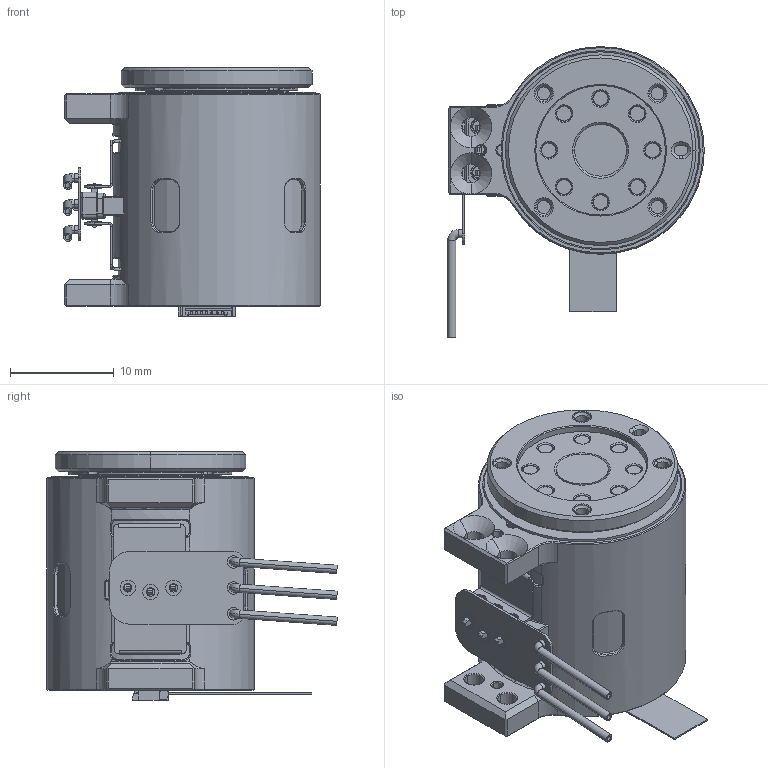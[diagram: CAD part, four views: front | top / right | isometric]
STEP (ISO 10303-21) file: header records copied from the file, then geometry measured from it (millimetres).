
FILE_DESCRIPTION((''),'2;1');
FILE_NAME('X20S_1__ASM','2026-09-01T12:49:15',('wenbo'),(''),'CREO PARAMETRIC BY PTC INC, 2024325','CREO PARAMETRIC BY PTC INC, 2024325','');
FILE_SCHEMA(('CONFIG_CONTROL_DESIGN'));
Length unit declared in the file: millimetre
Products named in the file (36): 023000000004_79_1_1_1; 021100000003_ASM_8_1_ASM_1_ASM__ASM; 021200000003_ASM_28_1_ASM_1_ASM_ASM; 022700000001-ZK_22_1_1_1; CU_1_5_1_1_1; CU_2_3_1_1_1; XICENG_5_1_1_1; XICENG1_6_1_1_1; Y02270000004_AF0_ASM_33_1_ASM_1_ASM; Y02270000004_AF1_ASM_33_1_ASM_1_ASM; 025000000002_AF0_2_1_1_1_1_1; 025300000001_1_1_2_1_1_1_1; 025000000001_ASM_2_1_ASM_1_ASM__ASM; 020400000004_ASM_28_1_ASM_1_ASM_ASM; 062700000003_9_1_1_1; 065100000001_2_1_1_1; 020300000004_ASM_19_1_ASM_1_ASM_ASM; 024200000006_114_1_1_1; 0235_10_1_1_1; 024300000006_21_1_1_1; 020600000005_ASM_13_1_ASM_1_ASM_ASM; 024800000001_7_1_1_1; 1111_3_1_1_1; 024800000001_ASM_3_1_ASM_1_ASM__ASM; 020200000011_ASM_44_1_ASM_1_ASM_ASM; PRT0012_11_1_1_1_1; ASM0008_ASM_1_ASM_1_ASM; 200_1_1; 400_1_1; 100_1_1; 300_1_1; FPC-SMD_0510-GX-7PWB-GF-RB_FP_2_ASM; FPC-SMD_0510-GX-7PWB-GF-RB_FP_3_ASM; X20S_1__ASM_1_ASM; YUANZHU; X20S_1__ASM
Assembly tree (79 placements, depth 8):
  X20S_1__ASM
    X20S_1__ASM_1_ASM
      ASM0008_ASM_1_ASM_1_ASM
        020200000011_ASM_44_1_ASM_1_ASM_ASM
          020300000004_ASM_19_1_ASM_1_ASM_ASM
            020400000004_ASM_28_1_ASM_1_ASM_ASM
              021100000003_ASM_8_1_ASM_1_ASM__ASM
                023000000004_79_1_1_1
              021200000003_ASM_28_1_ASM_1_ASM_ASM
              Y02270000004_AF0_ASM_33_1_ASM_1_ASM
                022700000001-ZK_22_1_1_1
                CU_1_5_1_1_1  x3
                CU_2_3_1_1_1  x3
                XICENG_5_1_1_1  x6
                XICENG1_6_1_1_1  x6
              Y02270000004_AF1_ASM_33_1_ASM_1_ASM
                022700000001-ZK_22_1_1_1
                CU_1_5_1_1_1  x3
                CU_2_3_1_1_1  x3
                XICENG_5_1_1_1  x6
                XICENG1_6_1_1_1  x6
              025000000001_ASM_2_1_ASM_1_ASM__ASM
                025000000002_AF0_2_1_1_1_1_1
                025300000001_1_1_2_1_1_1_1  x3
            062700000003_9_1_1_1
            065100000001_2_1_1_1  x3
          020600000005_ASM_13_1_ASM_1_ASM_ASM
            024200000006_114_1_1_1
            0235_10_1_1_1
            024300000006_21_1_1_1  x8
          024800000001_ASM_3_1_ASM_1_ASM__ASM
            024800000001_7_1_1_1
            1111_3_1_1_1
        PRT0012_11_1_1_1_1
      FPC-SMD_0510-GX-7PWB-GF-RB_FP_3_ASM
        FPC-SMD_0510-GX-7PWB-GF-RB_FP_2_ASM
          200_1_1
          400_1_1
          100_1_1
          300_1_1
    YUANZHU
Bounding box: 24.75 x 28.02 x 23.95 mm (x, y, z)
Volume: 6409.1 mm3; surface area: 7389 mm2
Topology: 65 solids, 69 shells, 1676 faces, 4440 edges, 2923 vertices
Faces by surface type: plane 746, cylinder 523, torus 129, cone 128, extrusion 88, bspline 60, sphere 2
Entity records: 49289 total; most frequent: CARTESIAN_POINT 13707, DIRECTION 7339, ORIENTED_EDGE 7312, EDGE_CURVE 3672, AXIS2_PLACEMENT_3D 2594, VERTEX_POINT 2427, VECTOR 2151, LINE 2063
